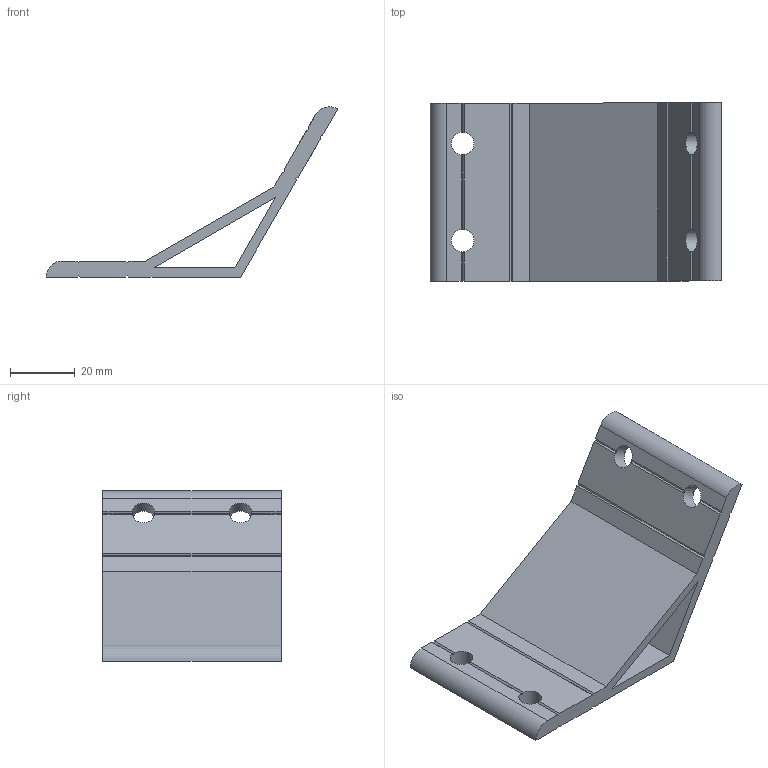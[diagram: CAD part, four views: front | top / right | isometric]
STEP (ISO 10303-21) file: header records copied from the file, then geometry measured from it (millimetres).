
FILE_DESCRIPTION(/* description */ ('Unknown'),/* implementation_level */ '2;1');
FILE_NAME(/* name */ 'AV55120',/* time_stamp */ '2026-09-17T13:55:43+08:00',/* author */ ('Unknown'),/* organization */ ('Unknown'),/* preprocessor_version */ 'ST-DEVELOPER v16.7',/* originating_system */ 'DEX',/* authorisation */ $);
FILE_SCHEMA (('AUTOMOTIVE_DESIGN {1 0 10303 214 3 1 1}'));
Length unit declared in the file: millimetre
Products named in the file (1): AV55120
Bounding box: 90 x 55 x 52.63 mm (x, y, z)
Volume: 32440.4 mm3; surface area: 19433.4 mm2
Topology: 1 solids, 1 shells, 56 faces, 178 edges, 116 vertices
Faces by surface type: plane 50, cylinder 6
Full cylindrical faces by diameter (mm): 7 x4
Entity records: 2000 total; most frequent: ORIENTED_EDGE 348, CARTESIAN_POINT 347, DIRECTION 340, EDGE_CURVE 174, LINE 122, VECTOR 122, VERTEX_POINT 116, AXIS2_PLACEMENT_3D 109
